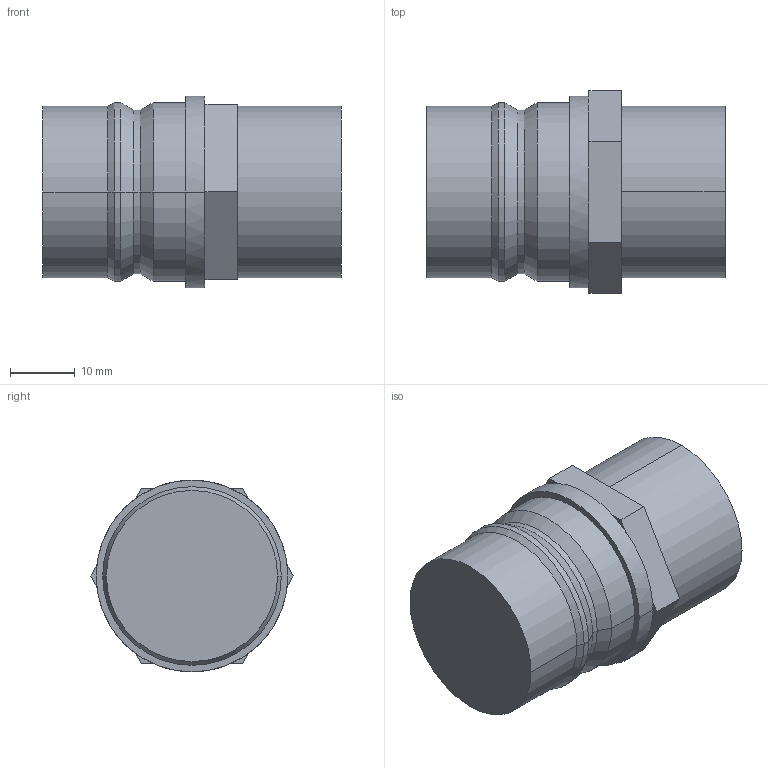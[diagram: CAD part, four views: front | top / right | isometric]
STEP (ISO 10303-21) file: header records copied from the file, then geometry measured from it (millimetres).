
FILE_DESCRIPTION (( 'STEP AP214' ), '1' );
FILE_NAME ('BR601.12 ERB 26.STEP', '2020-12-02T13:50:35', ( '' ), ( '' ), 'SwSTEP 2.0', 'SolidWorks 2018', '' );
FILE_SCHEMA (( 'AUTOMOTIVE_DESIGN' ));
Length unit declared in the file: millimetre
Products named in the file (1): BR601.12 ERB 26
Bounding box: 46 x 31.18 x 29.55 mm (x, y, z)
Volume: 26288.1 mm3; surface area: 5319.9 mm2
Topology: 1 solids, 1 shells, 40 faces, 84 edges, 48 vertices
Faces by surface type: plane 22, cylinder 12, cone 6
Entity records: 1086 total; most frequent: DIRECTION 202, CARTESIAN_POINT 173, ORIENTED_EDGE 168, EDGE_CURVE 84, AXIS2_PLACEMENT_3D 77, VERTEX_POINT 48, LINE 48, VECTOR 48
